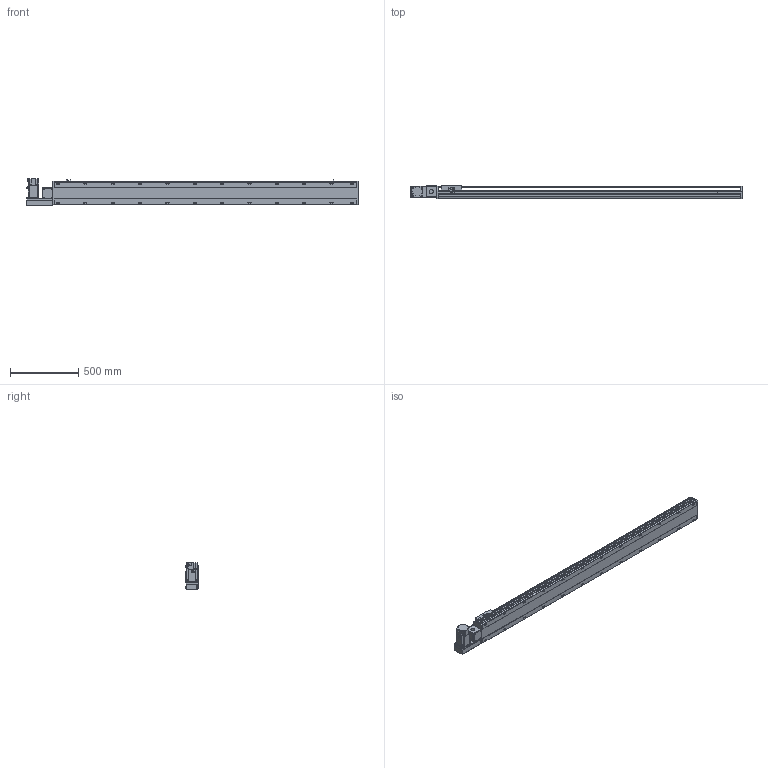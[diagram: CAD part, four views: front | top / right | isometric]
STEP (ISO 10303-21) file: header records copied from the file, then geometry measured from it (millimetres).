
FILE_DESCRIPTION( ( 'STEP AP214' ), '1' );
FILE_NAME( 'x:/temp/worker_3/temp/exporttempdir_5796_117_efHz9/format_0/PBS170-P40-S1950-L-T75-C1-N(0).stp', '2022-06-07T06:58:00', ( 'License CC BY-ND 4.0' ), ( 'CADENAS' ), ' ', 'PARTsolutions', ' ' );
FILE_SCHEMA( ( 'AUTOMOTIVE_DESIGN { 1 0 10303 214 1 1 1 1 }' ) );
Length unit declared in the file: millimetre
Products named in the file (7): PBS170-P40-S1950-L-T75-C1-N(0); _PBS170-S1950()_body; _PBS170T-L_motors; _T75-p1; _PBS170_sliser; _PBS170_plant; _PBS170_sensor
Assembly tree (8 placements, depth 2):
  PBS170-P40-S1950-L-T75-C1-N(0)
    _PBS170-S1950()_body
    _PBS170T-L_motors
    _T75-p1
    _PBS170_sliser
    _PBS170_plant
    _PBS170_sensor  x3
Bounding box: 2428 x 97 x 197.3 mm (x, y, z)
Volume: 17760039.4 mm3; surface area: 2256627.2 mm2
Topology: 8 solids, 8 shells, 1146 faces, 3035 edges, 1978 vertices
Faces by surface type: plane 711, cylinder 371, cone 54, sphere 8, torus 2
Full cylindrical faces by diameter (mm): 3.242 x4, 4 x2, 4.4 x4, 4.5 x6, 4.917 x4, 6 x9, 6.647 x32, 7 x2, 7.5 x4, 8 x8, 8.5 x24, 10 x4, 10.5 x24, 11 x2, 30 x2, 40 x1, 70 x1
Entity records: 42308 total; most frequent: CARTESIAN_POINT 6893, DIRECTION 5580, ORIENTED_EDGE 5268, EDGE_CURVE 2634, AXIS2_PLACEMENT_3D 1957, VERTEX_POINT 1826, LINE 1666, VECTOR 1666
